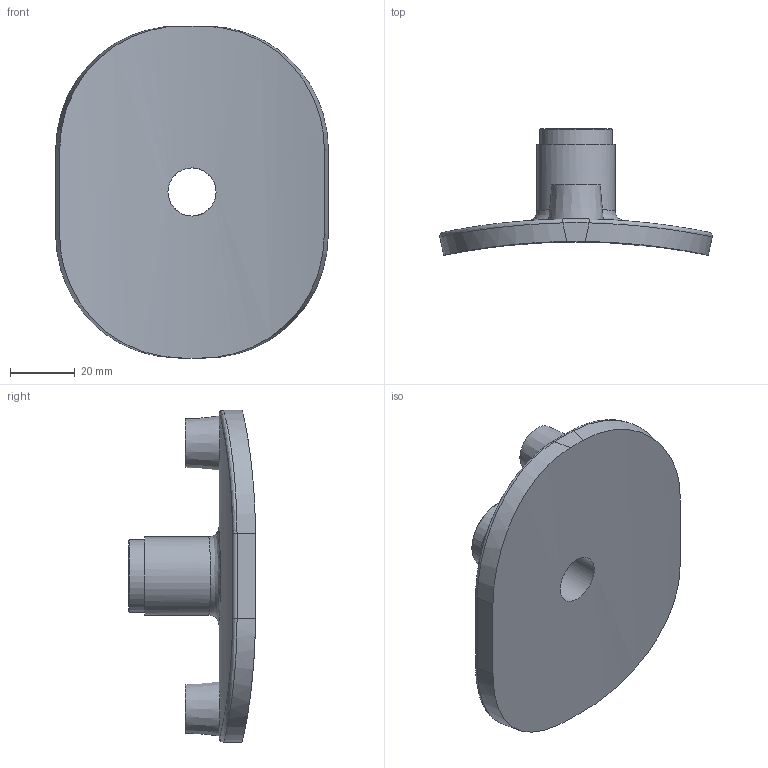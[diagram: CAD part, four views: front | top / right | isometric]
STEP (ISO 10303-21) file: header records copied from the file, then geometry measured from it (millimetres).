
FILE_DESCRIPTION(/* description */ ('PLASSON SENSOR ADAPTOR WITH STAINLESS STEEL THREAD 4''''16''''IPS x 1/2'''''),/* implementation_level */ '2;1');
FILE_NAME(/* name */ 'C:\Dropbox\KIMPROJECTS-Inventor 2019\99-16-3568-Processing Inch\ASTM ElectroFusion 2021\5938S\5938S3400005.ipt.stp',/* time_stamp */ '2021-08-30T09:52:48+03:00',/* author */ ('Кирилл'),/* organization */ (''),/* preprocessor_version */ 'ST-DEVELOPER v17.2',/* originating_system */ 'Autodesk Inventor 2019',/* authorisation */ '');
FILE_SCHEMA (('AUTOMOTIVE_DESIGN { 1 0 10303 214 3 1 1 }'));
Length unit declared in the file: inch
Products named in the file (1): 5938S3400005
Bounding box: 84.39 x 39.25 x 102.87 mm (x, y, z)
Volume: 59833.4 mm3; surface area: 22166.7 mm2
Topology: 1 solids, 1 shells, 41 faces, 88 edges, 58 vertices
Faces by surface type: cylinder 17, plane 12, cone 5, bspline 5, torus 2
Full cylindrical faces by diameter (mm): 4 x2, 10 x2, 14.905 x1, 18.631 x1, 22.357 x1, 24.22 x1
Entity records: 1658 total; most frequent: CARTESIAN_POINT 729, ORIENTED_EDGE 178, DIRECTION 178, EDGE_CURVE 89, AXIS2_PLACEMENT_3D 75, VERTEX_POINT 59, EDGE_LOOP 52, FACE_OUTER_BOUND 41
